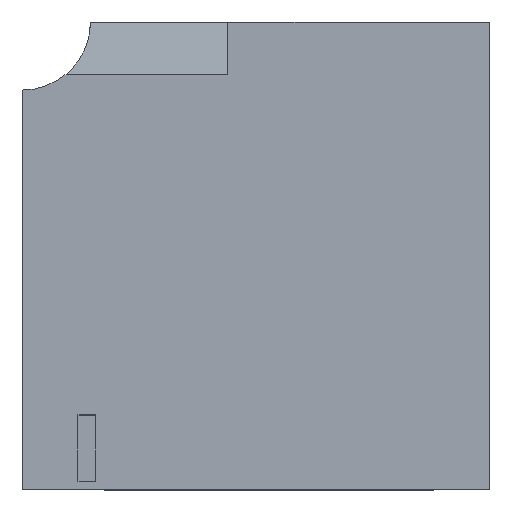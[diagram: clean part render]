
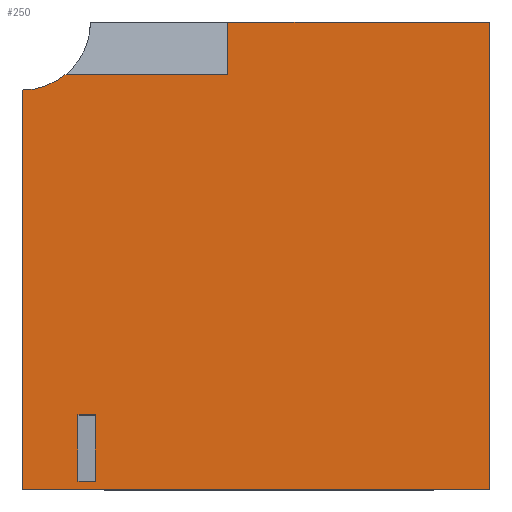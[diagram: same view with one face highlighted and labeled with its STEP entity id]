
A CAD part, top view. The second image highlights one B-rep face of the part: STEP entity #250.
In plain terms, the highlighted planar face has unit normal (0, 0, 1).
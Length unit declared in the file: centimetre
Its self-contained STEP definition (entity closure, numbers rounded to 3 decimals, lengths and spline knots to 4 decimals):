
#13 = CARTESIAN_POINT ( 'NONE',  ( 439.637, 1000., 1000. ) ) ;
#30 = VERTEX_POINT ( 'NONE', #13 ) ;
#34 = DIRECTION ( 'NONE',  ( 1., 0., 0. ) ) ;
#39 = PLANE ( 'NONE',  #206 ) ;
#42 = EDGE_CURVE ( 'NONE', #414, #336, #217, .T. ) ;
#43 = FACE_BOUND ( 'NONE', #201, .T. ) ;
#59 = LINE ( 'NONE', #204, #462 ) ;
#74 = VECTOR ( 'NONE', #652, 100. ) ;
#96 = VERTEX_POINT ( 'NONE', #779 ) ;
#104 = VECTOR ( 'NONE', #800, 100. ) ;
#112 = DIRECTION ( 'NONE',  ( 1., 0., 0. ) ) ;
#114 = LINE ( 'NONE', #314, #157 ) ;
#117 = EDGE_CURVE ( 'NONE', #96, #529, #448, .T. ) ;
#124 = LINE ( 'NONE', #542, #492 ) ;
#151 = DIRECTION ( 'NONE',  ( -1., 0., 0. ) ) ;
#157 = VECTOR ( 'NONE', #866, 100. ) ;
#161 = VERTEX_POINT ( 'NONE', #671 ) ;
#165 = DIRECTION ( 'NONE',  ( 0., -1., 0. ) ) ;
#182 = EDGE_CURVE ( 'NONE', #161, #30, #114, .T. ) ;
#190 = VERTEX_POINT ( 'NONE', #868 ) ;
#201 = EDGE_LOOP ( 'NONE', ( #279, #419, #543, #746 ) ) ;
#204 = CARTESIAN_POINT ( 'NONE',  ( 156.4367, 17.1409, 1000. ) ) ;
#206 = AXIS2_PLACEMENT_3D ( 'NONE', #721, #322, #872 ) ;
#217 = LINE ( 'NONE', #362, #370 ) ;
#221 = VECTOR ( 'NONE', #165, 100. ) ;
#239 = EDGE_CURVE ( 'NONE', #336, #190, #588, .T. ) ;
#241 = LINE ( 'NONE', #525, #104 ) ;
#244 = ORIENTED_EDGE ( 'NONE', *, *, #182, .F. ) ;
#250 = ADVANCED_FACE ( 'NONE', ( #309, #43 ), #39, .T. ) ;
#251 = CARTESIAN_POINT ( 'NONE',  ( 0., 1000., 1000. ) ) ;
#260 = DIRECTION ( 'NONE',  ( 0., 0., 1. ) ) ;
#265 = EDGE_CURVE ( 'NONE', #190, #678, #241, .T. ) ;
#266 = ORIENTED_EDGE ( 'NONE', *, *, #351, .F. ) ;
#267 = CARTESIAN_POINT ( 'NONE',  ( 1000., 1000., 1000. ) ) ;
#268 = EDGE_CURVE ( 'NONE', #529, #737, #582, .T. ) ;
#279 = ORIENTED_EDGE ( 'NONE', *, *, #268, .F. ) ;
#283 = ORIENTED_EDGE ( 'NONE', *, *, #42, .T. ) ;
#304 = LINE ( 'NONE', #251, #74 ) ;
#309 = FACE_OUTER_BOUND ( 'NONE', #752, .T. ) ;
#314 = CARTESIAN_POINT ( 'NONE',  ( 439.637, 1000., 1000. ) ) ;
#322 = DIRECTION ( 'NONE',  ( 0., 0., 1. ) ) ;
#330 = CARTESIAN_POINT ( 'NONE',  ( 0., 1000., 1000. ) ) ;
#331 = VERTEX_POINT ( 'NONE', #342 ) ;
#336 = VERTEX_POINT ( 'NONE', #767 ) ;
#339 = EDGE_CURVE ( 'NONE', #425, #96, #59, .T. ) ;
#342 = CARTESIAN_POINT ( 'NONE',  ( 93.4023, 888.2662, 1000. ) ) ;
#347 = CARTESIAN_POINT ( 'NONE',  ( 156.4367, 17.1409, 1000. ) ) ;
#351 = EDGE_CURVE ( 'NONE', #414, #331, #571, .T. ) ;
#362 = CARTESIAN_POINT ( 'NONE',  ( 0., 1000., 1000. ) ) ;
#370 = VECTOR ( 'NONE', #717, 100. ) ;
#377 = CARTESIAN_POINT ( 'NONE',  ( 118.9568, 17.1409, 1000. ) ) ;
#381 = ORIENTED_EDGE ( 'NONE', *, *, #386, .T. ) ;
#386 = EDGE_CURVE ( 'NONE', #161, #331, #124, .T. ) ;
#387 = VECTOR ( 'NONE', #34, 100. ) ;
#412 = DIRECTION ( 'NONE',  ( -1., 0., 0. ) ) ;
#414 = VERTEX_POINT ( 'NONE', #619 ) ;
#419 = ORIENTED_EDGE ( 'NONE', *, *, #117, .F. ) ;
#425 = VERTEX_POINT ( 'NONE', #347 ) ;
#448 = LINE ( 'NONE', #709, #629 ) ;
#458 = CARTESIAN_POINT ( 'NONE',  ( 0., 0., 1000. ) ) ;
#462 = VECTOR ( 'NONE', #481, 100. ) ;
#481 = DIRECTION ( 'NONE',  ( 0., 1., 0. ) ) ;
#492 = VECTOR ( 'NONE', #412, 100. ) ;
#525 = CARTESIAN_POINT ( 'NONE',  ( 1000., 1000., 1000. ) ) ;
#529 = VERTEX_POINT ( 'NONE', #575 ) ;
#532 = AXIS2_PLACEMENT_3D ( 'NONE', #330, #260, #538 ) ;
#538 = DIRECTION ( 'NONE',  ( 1., 0., 0. ) ) ;
#542 = CARTESIAN_POINT ( 'NONE',  ( 439.637, 888.2662, 1000. ) ) ;
#543 = ORIENTED_EDGE ( 'NONE', *, *, #339, .F. ) ;
#571 = CIRCLE ( 'NONE', #532, 145.6312 ) ;
#573 = EDGE_CURVE ( 'NONE', #737, #425, #674, .T. ) ;
#575 = CARTESIAN_POINT ( 'NONE',  ( 118.9568, 159.214, 1000. ) ) ;
#582 = LINE ( 'NONE', #858, #221 ) ;
#584 = ORIENTED_EDGE ( 'NONE', *, *, #265, .T. ) ;
#588 = LINE ( 'NONE', #458, #387 ) ;
#619 = CARTESIAN_POINT ( 'NONE',  ( 0., 854.3688, 1000. ) ) ;
#627 = ORIENTED_EDGE ( 'NONE', *, *, #681, .T. ) ;
#629 = VECTOR ( 'NONE', #151, 100. ) ;
#652 = DIRECTION ( 'NONE',  ( -1., 0., 0. ) ) ;
#671 = CARTESIAN_POINT ( 'NONE',  ( 439.637, 888.2662, 1000. ) ) ;
#674 = LINE ( 'NONE', #809, #821 ) ;
#678 = VERTEX_POINT ( 'NONE', #267 ) ;
#681 = EDGE_CURVE ( 'NONE', #678, #30, #304, .T. ) ;
#709 = CARTESIAN_POINT ( 'NONE',  ( 118.9568, 159.214, 1000. ) ) ;
#717 = DIRECTION ( 'NONE',  ( 0., -1., 0. ) ) ;
#721 = CARTESIAN_POINT ( 'NONE',  ( 0., 0., 1000. ) ) ;
#737 = VERTEX_POINT ( 'NONE', #377 ) ;
#746 = ORIENTED_EDGE ( 'NONE', *, *, #573, .F. ) ;
#752 = EDGE_LOOP ( 'NONE', ( #266, #283, #807, #584, #627, #244, #381 ) ) ;
#767 = CARTESIAN_POINT ( 'NONE',  ( 0., 0., 1000. ) ) ;
#779 = CARTESIAN_POINT ( 'NONE',  ( 156.4367, 159.214, 1000. ) ) ;
#800 = DIRECTION ( 'NONE',  ( 0., 1., 0. ) ) ;
#807 = ORIENTED_EDGE ( 'NONE', *, *, #239, .T. ) ;
#809 = CARTESIAN_POINT ( 'NONE',  ( 118.9568, 17.1409, 1000. ) ) ;
#821 = VECTOR ( 'NONE', #112, 100. ) ;
#858 = CARTESIAN_POINT ( 'NONE',  ( 118.9568, 17.1409, 1000. ) ) ;
#866 = DIRECTION ( 'NONE',  ( 0., 1., 0. ) ) ;
#868 = CARTESIAN_POINT ( 'NONE',  ( 1000., 0., 1000. ) ) ;
#872 = DIRECTION ( 'NONE',  ( 1., 0., 0. ) ) ;
